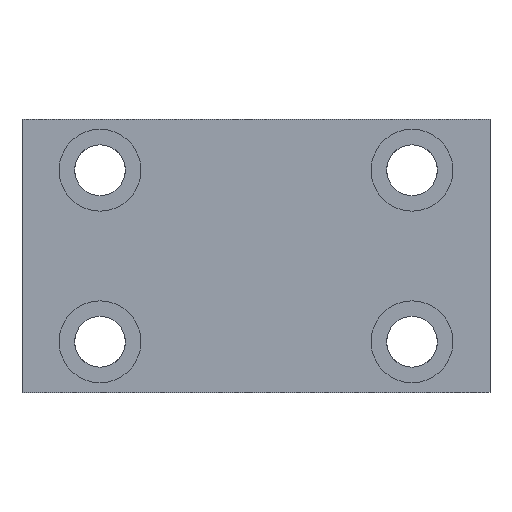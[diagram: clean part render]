
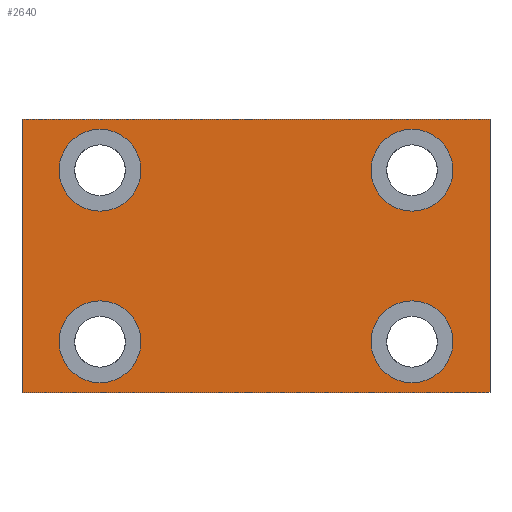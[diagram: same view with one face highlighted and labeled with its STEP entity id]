
A CAD part, front view. The second image highlights one B-rep face of the part: STEP entity #2640.
In plain terms, the highlighted planar face has unit normal (0, -1, 0).
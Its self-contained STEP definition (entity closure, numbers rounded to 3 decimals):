
#27 = DIRECTION ( 'NONE',  ( 0., 0., -1. ) ) ;
#35 = CIRCLE ( 'NONE', #4128, 5.25 ) ;
#54 = EDGE_LOOP ( 'NONE', ( #1092, #3341 ) ) ;
#79 = VERTEX_POINT ( 'NONE', #1040 ) ;
#118 = DIRECTION ( 'NONE',  ( 0., -1., 0. ) ) ;
#162 = DIRECTION ( 'NONE',  ( 1., 0., 0. ) ) ;
#167 = CARTESIAN_POINT ( 'NONE',  ( 20., 0., -16.25 ) ) ;
#187 = DIRECTION ( 'NONE',  ( 0., -1., 0. ) ) ;
#206 = DIRECTION ( 'NONE',  ( 0., 0., -1. ) ) ;
#207 = VERTEX_POINT ( 'NONE', #3885 ) ;
#210 = ORIENTED_EDGE ( 'NONE', *, *, #3585, .F. ) ;
#233 = DIRECTION ( 'NONE',  ( 0., 0., -1. ) ) ;
#234 = VERTEX_POINT ( 'NONE', #3623 ) ;
#316 = ORIENTED_EDGE ( 'NONE', *, *, #2283, .F. ) ;
#318 = CARTESIAN_POINT ( 'NONE',  ( 30., 0., -17.5 ) ) ;
#329 = AXIS2_PLACEMENT_3D ( 'NONE', #4077, #187, #233 ) ;
#385 = CARTESIAN_POINT ( 'NONE',  ( 0., 0., 0. ) ) ;
#505 = CARTESIAN_POINT ( 'NONE',  ( 30., 0., 17.5 ) ) ;
#524 = CARTESIAN_POINT ( 'NONE',  ( -30., 0., -17.5 ) ) ;
#537 = EDGE_CURVE ( 'NONE', #865, #1485, #2847, .T. ) ;
#631 = EDGE_CURVE ( 'NONE', #2031, #709, #4261, .T. ) ;
#680 = VERTEX_POINT ( 'NONE', #167 ) ;
#695 = AXIS2_PLACEMENT_3D ( 'NONE', #1478, #3769, #1791 ) ;
#697 = LINE ( 'NONE', #3751, #2357 ) ;
#709 = VERTEX_POINT ( 'NONE', #1073 ) ;
#852 = CARTESIAN_POINT ( 'NONE',  ( -30., 0., 17.5 ) ) ;
#865 = VERTEX_POINT ( 'NONE', #1829 ) ;
#873 = DIRECTION ( 'NONE',  ( 0., 0., 1. ) ) ;
#907 = FACE_BOUND ( 'NONE', #1241, .T. ) ;
#912 = ORIENTED_EDGE ( 'NONE', *, *, #1119, .F. ) ;
#937 = VERTEX_POINT ( 'NONE', #1890 ) ;
#1040 = CARTESIAN_POINT ( 'NONE',  ( -30., 0., 17.5 ) ) ;
#1073 = CARTESIAN_POINT ( 'NONE',  ( 20., 0., 5.75 ) ) ;
#1092 = ORIENTED_EDGE ( 'NONE', *, *, #537, .F. ) ;
#1100 = LINE ( 'NONE', #318, #3690 ) ;
#1119 = EDGE_CURVE ( 'NONE', #207, #2903, #35, .T. ) ;
#1241 = EDGE_LOOP ( 'NONE', ( #2321, #912 ) ) ;
#1378 = LINE ( 'NONE', #852, #3780 ) ;
#1388 = DIRECTION ( 'NONE',  ( 0., 0., 1. ) ) ;
#1393 = AXIS2_PLACEMENT_3D ( 'NONE', #3422, #1469, #3762 ) ;
#1418 = CARTESIAN_POINT ( 'NONE',  ( -20., 0., -11. ) ) ;
#1428 = DIRECTION ( 'NONE',  ( 0., -1., 0. ) ) ;
#1438 = DIRECTION ( 'NONE',  ( 0., 0., -1. ) ) ;
#1442 = ORIENTED_EDGE ( 'NONE', *, *, #2738, .F. ) ;
#1469 = DIRECTION ( 'NONE',  ( 0., -1., 0. ) ) ;
#1470 = CIRCLE ( 'NONE', #695, 5.25 ) ;
#1478 = CARTESIAN_POINT ( 'NONE',  ( 20., 0., -11. ) ) ;
#1485 = VERTEX_POINT ( 'NONE', #2809 ) ;
#1576 = VERTEX_POINT ( 'NONE', #505 ) ;
#1652 = AXIS2_PLACEMENT_3D ( 'NONE', #4177, #4188, #206 ) ;
#1684 = DIRECTION ( 'NONE',  ( 0., -1., 0. ) ) ;
#1690 = ORIENTED_EDGE ( 'NONE', *, *, #1908, .F. ) ;
#1791 = DIRECTION ( 'NONE',  ( 0., 0., -1. ) ) ;
#1796 = DIRECTION ( 'NONE',  ( -1., 0., 0. ) ) ;
#1829 = CARTESIAN_POINT ( 'NONE',  ( -20., 0., 5.75 ) ) ;
#1857 = CIRCLE ( 'NONE', #3740, 5.25 ) ;
#1886 = CARTESIAN_POINT ( 'NONE',  ( -20., 0., -16.25 ) ) ;
#1890 = CARTESIAN_POINT ( 'NONE',  ( 30., 0., -17.5 ) ) ;
#1908 = EDGE_CURVE ( 'NONE', #709, #2031, #1857, .T. ) ;
#2023 = PLANE ( 'NONE',  #2556 ) ;
#2027 = DIRECTION ( 'NONE',  ( 0., -1., 0. ) ) ;
#2031 = VERTEX_POINT ( 'NONE', #3647 ) ;
#2070 = AXIS2_PLACEMENT_3D ( 'NONE', #2121, #118, #2463 ) ;
#2121 = CARTESIAN_POINT ( 'NONE',  ( -20., 0., 11. ) ) ;
#2159 = EDGE_LOOP ( 'NONE', ( #1690, #4238 ) ) ;
#2207 = EDGE_CURVE ( 'NONE', #937, #2835, #697, .T. ) ;
#2214 = EDGE_LOOP ( 'NONE', ( #210, #316, #3356, #4279 ) ) ;
#2227 = CIRCLE ( 'NONE', #2070, 5.25 ) ;
#2283 = EDGE_CURVE ( 'NONE', #79, #1576, #1378, .T. ) ;
#2312 = DIRECTION ( 'NONE',  ( 0., 0., -1. ) ) ;
#2321 = ORIENTED_EDGE ( 'NONE', *, *, #3861, .F. ) ;
#2357 = VECTOR ( 'NONE', #1796, 1000. ) ;
#2463 = DIRECTION ( 'NONE',  ( 0., 0., -1. ) ) ;
#2533 = CARTESIAN_POINT ( 'NONE',  ( -30., 0., -17.5 ) ) ;
#2556 = AXIS2_PLACEMENT_3D ( 'NONE', #385, #3346, #1388 ) ;
#2558 = FACE_OUTER_BOUND ( 'NONE', #2214, .T. ) ;
#2640 = ADVANCED_FACE ( 'NONE', ( #907, #3515, #2671, #3409, #2558 ), #2023, .F. ) ;
#2671 = FACE_BOUND ( 'NONE', #2159, .T. ) ;
#2738 = EDGE_CURVE ( 'NONE', #680, #234, #1470, .T. ) ;
#2809 = CARTESIAN_POINT ( 'NONE',  ( -20., 0., 16.25 ) ) ;
#2835 = VERTEX_POINT ( 'NONE', #2533 ) ;
#2847 = CIRCLE ( 'NONE', #329, 5.25 ) ;
#2876 = ORIENTED_EDGE ( 'NONE', *, *, #3945, .F. ) ;
#2903 = VERTEX_POINT ( 'NONE', #1886 ) ;
#2987 = VECTOR ( 'NONE', #873, 1000. ) ;
#3293 = EDGE_CURVE ( 'NONE', #1485, #865, #2227, .T. ) ;
#3341 = ORIENTED_EDGE ( 'NONE', *, *, #3293, .F. ) ;
#3346 = DIRECTION ( 'NONE',  ( 0., 1., 0. ) ) ;
#3356 = ORIENTED_EDGE ( 'NONE', *, *, #4191, .F. ) ;
#3409 = FACE_BOUND ( 'NONE', #54, .T. ) ;
#3422 = CARTESIAN_POINT ( 'NONE',  ( -20., 0., -11. ) ) ;
#3445 = CIRCLE ( 'NONE', #1393, 5.25 ) ;
#3515 = FACE_BOUND ( 'NONE', #4175, .T. ) ;
#3585 = EDGE_CURVE ( 'NONE', #1576, #937, #1100, .T. ) ;
#3623 = CARTESIAN_POINT ( 'NONE',  ( 20., 0., -5.75 ) ) ;
#3647 = CARTESIAN_POINT ( 'NONE',  ( 20., 0., 16.25 ) ) ;
#3653 = CARTESIAN_POINT ( 'NONE',  ( 20., 0., 11. ) ) ;
#3690 = VECTOR ( 'NONE', #2312, 1000. ) ;
#3740 = AXIS2_PLACEMENT_3D ( 'NONE', #3653, #1684, #3975 ) ;
#3751 = CARTESIAN_POINT ( 'NONE',  ( -30., 0., -17.5 ) ) ;
#3762 = DIRECTION ( 'NONE',  ( 0., 0., -1. ) ) ;
#3769 = DIRECTION ( 'NONE',  ( 0., -1., 0. ) ) ;
#3780 = VECTOR ( 'NONE', #162, 1000. ) ;
#3845 = LINE ( 'NONE', #524, #2987 ) ;
#3861 = EDGE_CURVE ( 'NONE', #2903, #207, #3445, .T. ) ;
#3885 = CARTESIAN_POINT ( 'NONE',  ( -20., 0., -5.75 ) ) ;
#3945 = EDGE_CURVE ( 'NONE', #234, #680, #3995, .T. ) ;
#3975 = DIRECTION ( 'NONE',  ( 0., 0., -1. ) ) ;
#3978 = CARTESIAN_POINT ( 'NONE',  ( 20., 0., -11. ) ) ;
#3995 = CIRCLE ( 'NONE', #4240, 5.25 ) ;
#4077 = CARTESIAN_POINT ( 'NONE',  ( -20., 0., 11. ) ) ;
#4128 = AXIS2_PLACEMENT_3D ( 'NONE', #1418, #1428, #1438 ) ;
#4175 = EDGE_LOOP ( 'NONE', ( #1442, #2876 ) ) ;
#4177 = CARTESIAN_POINT ( 'NONE',  ( 20., 0., 11. ) ) ;
#4188 = DIRECTION ( 'NONE',  ( 0., -1., 0. ) ) ;
#4191 = EDGE_CURVE ( 'NONE', #2835, #79, #3845, .T. ) ;
#4238 = ORIENTED_EDGE ( 'NONE', *, *, #631, .F. ) ;
#4240 = AXIS2_PLACEMENT_3D ( 'NONE', #3978, #2027, #27 ) ;
#4261 = CIRCLE ( 'NONE', #1652, 5.25 ) ;
#4279 = ORIENTED_EDGE ( 'NONE', *, *, #2207, .F. ) ;
